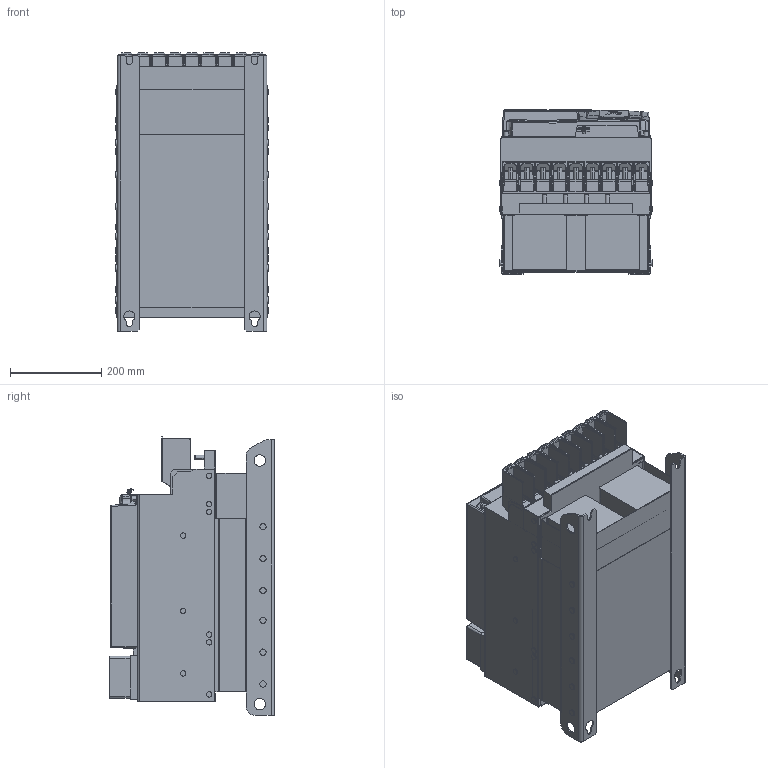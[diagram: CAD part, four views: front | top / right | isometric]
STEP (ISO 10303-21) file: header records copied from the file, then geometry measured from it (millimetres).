
FILE_DESCRIPTION (( 'STEP AP214' ), '1' );
FILE_NAME ('F6-7TR5-P150.STEP', '2021-02-16T09:56:22', ( '' ), ( '' ), 'SwSTEP 2.0', 'SolidWorks 2019', '' );
FILE_SCHEMA (( 'AUTOMOTIVE_DESIGN' ));
Length unit declared in the file: millimetre
Products named in the file (15): 10061503_000; 10045475_000_Gehеsebaugruppe F6-7 +L’terkarte (Kundenmodell); 10059762_000_Kundenmodell mit Geberbuchsen; 10061522_000; 10061505_000; 10050699_000_Leistungsteil Luft A (Kundenmodell); 10061627_000; 10051076_000_Kundenmodell; 10059765_000; 10044088_000_Kundenmodell; 10061504_000_Gehеsebaugruppe mit L’terkarte; 10059764_000_Blindabdeckung (Kundenmodell); 10061502_000_Deckel (Kundenmodell); 10043622_000_70F6 Klemme (Kundenmodell); F6-7TR5-P150
Assembly tree (14 placements, depth 4):
  F6-7TR5-P150
    10050699_000_Leistungsteil Luft A (Kundenmodell)
      10043622_000_70F6 Klemme (Kundenmodell)
        10061522_000
      10061627_000
    10045475_000_Gehеsebaugruppe F6-7 +L’terkarte (Kundenmodell)
      10061502_000_Deckel (Kundenmodell)
        10061503_000
      10044088_000_Kundenmodell
        10061505_000
      10061504_000_Gehеsebaugruppe mit L’terkarte
    10051076_000_Kundenmodell
      10059764_000_Blindabdeckung (Kundenmodell)
        10059765_000
      10059762_000_Kundenmodell mit Geberbuchsen
Bounding box: 335.4 x 361.4 x 611.76 mm (x, y, z)
Volume: 55933162.6 mm3; surface area: 2322289 mm2
Topology: 13 solids, 13 shells, 3235 faces, 8323 edges, 5125 vertices
Faces by surface type: plane 1693, cylinder 951, bspline 292, sphere 172, torus 65, cone 62
Entity records: 104754 total; most frequent: CARTESIAN_POINT 28220, ORIENTED_EDGE 16424, DIRECTION 15003, EDGE_CURVE 8212, LINE 5347, VECTOR 5347, VERTEX_POINT 5122, AXIS2_PLACEMENT_3D 4828
